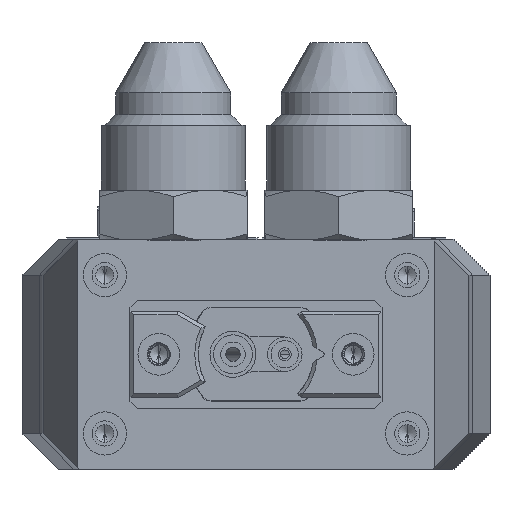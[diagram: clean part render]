
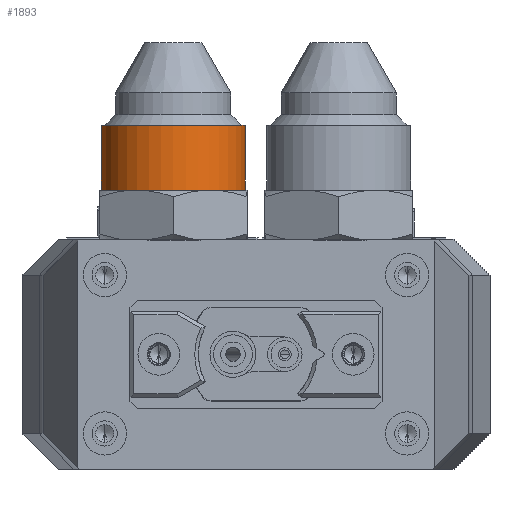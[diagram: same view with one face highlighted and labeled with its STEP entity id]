
A CAD part, front view. The second image highlights one B-rep face of the part: STEP entity #1893.
In plain terms, the highlighted cylindrical face has radius 10 mm (diameter 20 mm), a partial arc.
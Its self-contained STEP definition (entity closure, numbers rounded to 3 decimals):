
#616 = VECTOR ( 'NONE', #27643, 1000. ) ;
#1384 = DIRECTION ( 'NONE',  ( 0., 0., 1. ) ) ;
#1893 = ADVANCED_FACE ( 'NONE', ( #10710 ), #62818, .T. ) ;
#2210 = ORIENTED_EDGE ( 'NONE', *, *, #67457, .F. ) ;
#2943 = ORIENTED_EDGE ( 'NONE', *, *, #18531, .T. ) ;
#10492 = CARTESIAN_POINT ( 'NONE',  ( -48.998, -154.021, 1030.303 ) ) ;
#10710 = FACE_OUTER_BOUND ( 'NONE', #71763, .T. ) ;
#10958 = CARTESIAN_POINT ( 'NONE',  ( -48.998, -154.021, 1052.575 ) ) ;
#12931 = VECTOR ( 'NONE', #45447, 1000. ) ;
#15302 = EDGE_CURVE ( 'NONE', #51446, #69211, #74569, .T. ) ;
#17203 = ORIENTED_EDGE ( 'NONE', *, *, #15302, .T. ) ;
#18531 = EDGE_CURVE ( 'NONE', #60824, #51446, #47657, .T. ) ;
#22749 = CARTESIAN_POINT ( 'NONE',  ( -58.998, -154.021, 1030.303 ) ) ;
#25993 = AXIS2_PLACEMENT_3D ( 'NONE', #22749, #29642, #75229 ) ;
#27643 = DIRECTION ( 'NONE',  ( 0., 0., 1. ) ) ;
#29642 = DIRECTION ( 'NONE',  ( 0., 0., -1. ) ) ;
#32276 = LINE ( 'NONE', #73987, #616 ) ;
#33640 = CARTESIAN_POINT ( 'NONE',  ( -68.998, -154.021, 1030.303 ) ) ;
#35106 = CARTESIAN_POINT ( 'NONE',  ( -68.998, -154.021, 1021.303 ) ) ;
#45447 = DIRECTION ( 'NONE',  ( 0., 0., 1. ) ) ;
#45655 = VERTEX_POINT ( 'NONE', #33640 ) ;
#47657 = CIRCLE ( 'NONE', #66041, 10. ) ;
#51316 = DIRECTION ( 'NONE',  ( 0., 0., 1. ) ) ;
#51446 = VERTEX_POINT ( 'NONE', #58624 ) ;
#52383 = DIRECTION ( 'NONE',  ( 1., 0., 0. ) ) ;
#53900 = CARTESIAN_POINT ( 'NONE',  ( -58.998, -154.021, 1021.303 ) ) ;
#55950 = CARTESIAN_POINT ( 'NONE',  ( -58.998, -154.021, 1052.575 ) ) ;
#58582 = EDGE_CURVE ( 'NONE', #69211, #45655, #59020, .T. ) ;
#58624 = CARTESIAN_POINT ( 'NONE',  ( -48.998, -154.021, 1021.303 ) ) ;
#59020 = CIRCLE ( 'NONE', #25993, 10. ) ;
#59372 = AXIS2_PLACEMENT_3D ( 'NONE', #55950, #51316, #74695 ) ;
#60824 = VERTEX_POINT ( 'NONE', #35106 ) ;
#62818 = CYLINDRICAL_SURFACE ( 'NONE', #59372, 10. ) ;
#66041 = AXIS2_PLACEMENT_3D ( 'NONE', #53900, #1384, #52383 ) ;
#67457 = EDGE_CURVE ( 'NONE', #60824, #45655, #32276, .T. ) ;
#69211 = VERTEX_POINT ( 'NONE', #10492 ) ;
#71763 = EDGE_LOOP ( 'NONE', ( #2210, #2943, #17203, #72841 ) ) ;
#72841 = ORIENTED_EDGE ( 'NONE', *, *, #58582, .T. ) ;
#73987 = CARTESIAN_POINT ( 'NONE',  ( -68.998, -154.021, 1052.575 ) ) ;
#74569 = LINE ( 'NONE', #10958, #12931 ) ;
#74695 = DIRECTION ( 'NONE',  ( 1., 0., 0. ) ) ;
#75229 = DIRECTION ( 'NONE',  ( 1., 0., 0. ) ) ;
